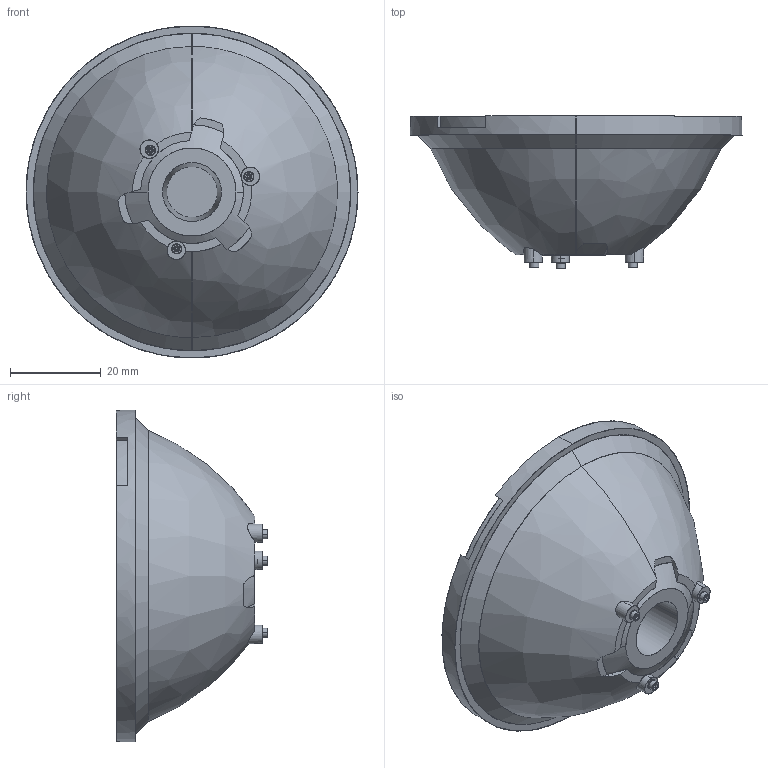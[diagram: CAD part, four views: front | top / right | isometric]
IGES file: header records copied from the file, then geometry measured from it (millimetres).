
Start section: SolidWorks IGES file using analytic representation for surfaces
Global section: file name: C:\P-Gold\Projects\Lenses\LuxPar_Lenses\06-LZP\Size_001\2400-0078_Lens(35deg)\Application\LZP-35deg-Lens-LensH-Apps_RevA1.IGS; native system: SolidWorks 2011; preprocessor: SolidWorks 2011; author: dadebiyi; date: 110830.103804; units: millimetre
Bounding box: 73 x 33.36 x 73 mm (x, y, z)
Surface area: 24678.3 mm2 (no closed solid volume)
Topology: 0 solids, 0 shells, 199 faces, 2501 edges, 2501 vertices
Faces by surface type: revolution 114, bspline 85
